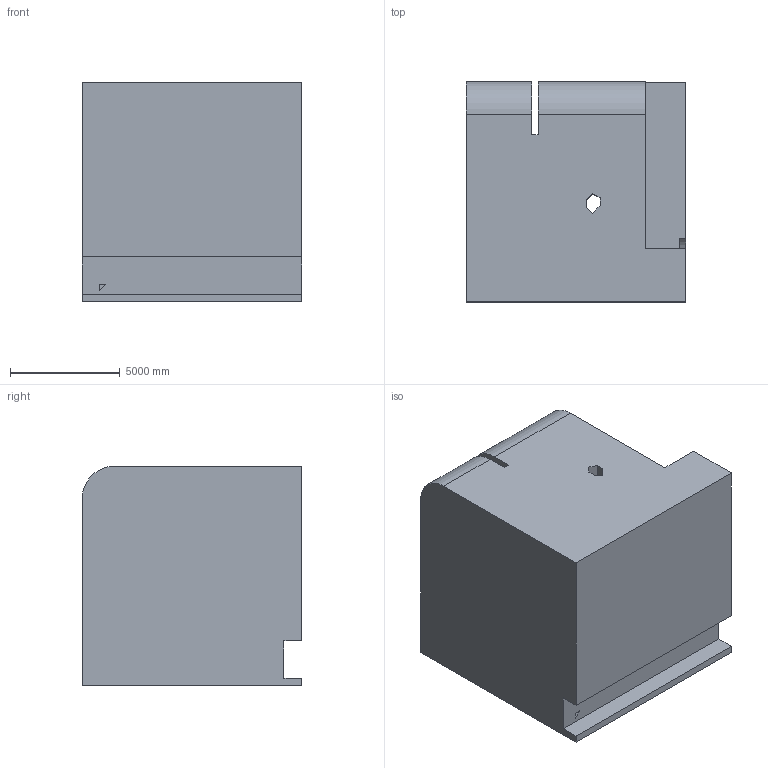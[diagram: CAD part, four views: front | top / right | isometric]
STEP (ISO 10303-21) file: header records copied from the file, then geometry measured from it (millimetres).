
FILE_DESCRIPTION (( 'STEP AP203' ), '1' );
FILE_NAME ('61.STEP', '2022-09-02T15:22:03', ( 'user' ), ( '' ), 'SwSTEP 2.0', 'SolidWorks 2021', '' );
FILE_SCHEMA (( 'CONFIG_CONTROL_DESIGN' ));
Length unit declared in the file: centimetre
Products named in the file (1): 61
Bounding box: 10000 x 10000 x 10000 mm (x, y, z)
Volume: 939977402923.6 mm3; surface area: 686796759.5 mm2
Topology: 1 solids, 1 shells, 36 faces, 96 edges, 64 vertices
Faces by surface type: plane 29, cylinder 7
Entity records: 1195 total; most frequent: CARTESIAN_POINT 197, ORIENTED_EDGE 192, DIRECTION 184, EDGE_CURVE 96, VECTOR 82, LINE 82, VERTEX_POINT 64, AXIS2_PLACEMENT_3D 51
